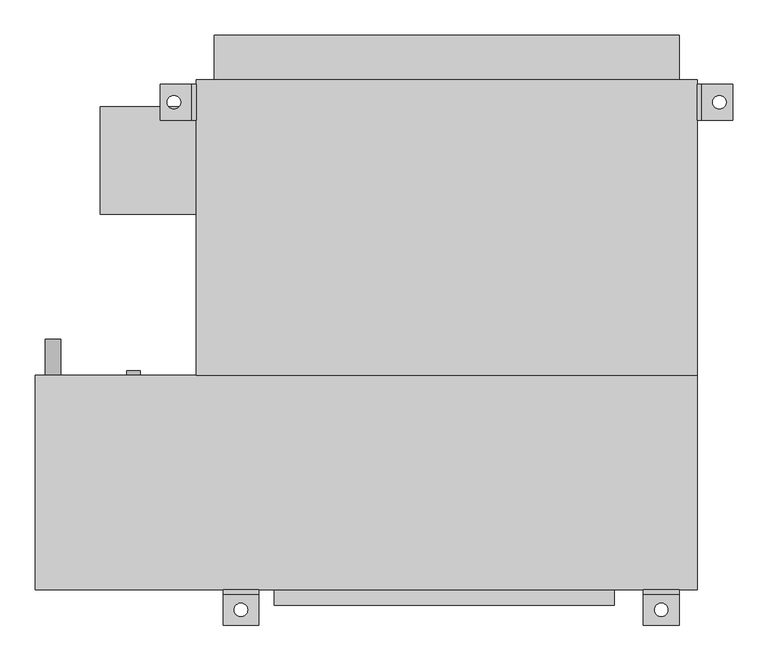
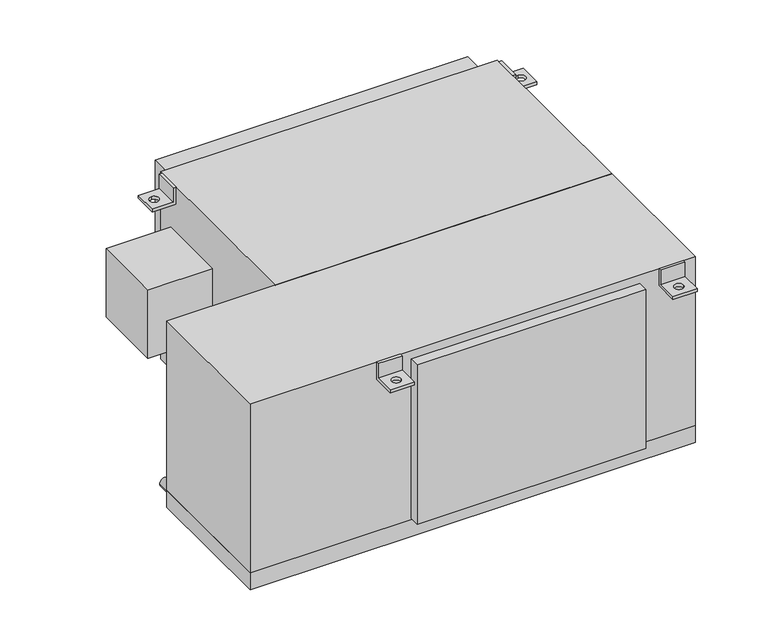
"""IFC4 building model written with IfcOpenShell, lengths in millimetres: proxy geometry, Concealed_High_Capacity_Horizontal_Fan_Coil_Unit_With_Plenum_-_42DCA_-_CARRIER_-_2-Pipe_Cool-EHeat_ValveEnclosure_LH_2022 : Size 08 - 277v/60Hz/1Ph - 6 Row 6.0kW."""

import ifcopenshell
import ifcopenshell.guid

model = None  # the IFC model being written
_history = None  # IfcOwnerHistory: only IFC2X3 demands one
_inside = {}  # id of a spatial element -> (the spatial element, [elements in it])
_under = {}  # id of a project, library or spatial element -> (it, [spatial elements below it])
_declared = {}  # id of a project -> (the project, [libraries it declares])
_typed = {}  # id of a type object -> (the type object, [elements of that type])
_made_of = {}  # id of a material, layer set ... -> (it, [elements and type objects made of it])


def new_model(schema):
    """Start an empty IFC model of exactly this schema.

    Asked for "IFC4X3", IfcOpenShell would pick the latest addendum, in which some entities
    have other attributes; the version numbers below select the first issue.
    IFC2X3 requires an IfcOwnerHistory on every rooted entity: one is made here for all.
    """
    global model, _history
    if schema == "IFC4X3":
        model = ifcopenshell.file(schema_version=(4, 3, 0, 0))
    else:
        model = ifcopenshell.file(schema=schema)
    _inside.clear()
    _under.clear()
    _declared.clear()
    _typed.clear()
    _made_of.clear()
    _history = None
    if model.schema == "IFC2X3":
        org = make("IfcOrganization", Name="unknown")
        user = make(
            "IfcPersonAndOrganization",
            ThePerson=make("IfcPerson", FamilyName="unknown"),
            TheOrganization=org,
        )
        app = make(
            "IfcApplication",
            ApplicationDeveloper=org,
            Version="unknown",
            ApplicationFullName="unknown",
            ApplicationIdentifier="unknown",
        )
        _history = make(
            "IfcOwnerHistory",
            OwningUser=user,
            OwningApplication=app,
            ChangeAction="ADDED",
            CreationDate=0,
        )
    return model


def make(cls, **values):
    """One entity of the class cls with the attributes given. An attribute that is None is left unset."""
    return model.create_entity(
        cls, **{name: value for name, value in values.items() if value is not None}
    )


def rooted(cls, **values):
    """An entity with a GlobalId (a new one), such as an element, a storey or a relation."""
    return make(cls, GlobalId=ifcopenshell.guid.new(), OwnerHistory=_history, **values)


def si_unit(unit_type, name, prefix=None):
    """IfcSIUnit, for example si_unit("LENGTHUNIT", "METRE", prefix="MILLI")."""
    return make("IfcSIUnit", UnitType=unit_type, Prefix=prefix, Name=name)


def assignment(units):
    """IfcUnitAssignment: the units of a project."""
    return None if units is None else make("IfcUnitAssignment", Units=units)


def point(xyz):
    """IfcCartesianPoint."""
    return None if xyz is None else make("IfcCartesianPoint", Coordinates=xyz)


def direction(xyz):
    """IfcDirection."""
    return None if xyz is None else make("IfcDirection", DirectionRatios=xyz)


def frame(location, z_axis=None, x_axis=None):
    """IfcAxis2Placement3D, a coordinate frame: its origin and axes. An axis left out is left unset."""
    return make(
        "IfcAxis2Placement3D",
        Location=point(location),
        Axis=direction(z_axis),
        RefDirection=direction(x_axis),
    )


def frame_2d(location, x_axis=None):
    """IfcAxis2Placement2D, a coordinate frame in the plane: its origin and x axis."""
    return make(
        "IfcAxis2Placement2D", Location=point(location), RefDirection=direction(x_axis)
    )


def origin():
    """The frame at (0, 0, 0) with its axes left unset."""
    return frame((0.0, 0.0, 0.0))


def place(relative_to, where):
    """IfcLocalPlacement: puts the frame where relative to a parent placement (None: the world)."""
    return make(
        "IfcLocalPlacement", PlacementRelTo=relative_to, RelativePlacement=where
    )


def context(
    kind, dimensions, precision=None, world=None, true_north=None, identifier=None
):
    """IfcGeometricRepresentationContext, for example the 3D "Model" context."""
    return make(
        "IfcGeometricRepresentationContext",
        ContextIdentifier=identifier,
        ContextType=kind,
        CoordinateSpaceDimension=dimensions,
        Precision=precision,
        WorldCoordinateSystem=world,
        TrueNorth=true_north,
    )


def project(units=None, contexts=None):
    """IfcProject with its units and contexts."""
    return rooted(
        "IfcProject",
        Name="project",
        RepresentationContexts=contexts,
        UnitsInContext=assignment(units),
    )


def spatial(cls, under=None, at=None, **own):
    """A site, building, storey or space (cls), placed at a placement, below another one or the project."""
    s = rooted(cls, ObjectPlacement=at, **own)
    if under is not None:
        _under.setdefault(under.id(), (under, []))[1].append(s)
    return s


def polyline(points):
    """IfcPolyline through the points."""
    return make("IfcPolyline", Points=[point(p) for p in points])


def circle_curve(where, radius):
    """IfcCircle in the frame where."""
    return make("IfcCircle", Position=where, Radius=radius)


def trimmed(basis, trim1, trim2, sense, master):
    """IfcTrimmedCurve: the piece of a basis curve between two trims."""
    return make(
        "IfcTrimmedCurve",
        BasisCurve=basis,
        Trim1=trim1,
        Trim2=trim2,
        SenseAgreement=sense,
        MasterRepresentation=master,
    )


def segment(curve, same_sense, transition):
    """IfcCompositeCurveSegment."""
    return make(
        "IfcCompositeCurveSegment",
        Transition=transition,
        SameSense=same_sense,
        ParentCurve=curve,
    )


def composite_curve(segments, self_intersect=None):
    """IfcCompositeCurve: segments joined end to end."""
    return make("IfcCompositeCurve", Segments=segments, SelfIntersect=self_intersect)


def outline(outer, holes=None, kind="AREA"):
    """IfcArbitraryClosedProfileDef: a profile drawn as a closed curve; with holes, ...WithVoids."""
    if holes is None:
        return make("IfcArbitraryClosedProfileDef", ProfileType=kind, OuterCurve=outer)
    return make(
        "IfcArbitraryProfileDefWithVoids",
        ProfileType=kind,
        OuterCurve=outer,
        InnerCurves=holes,
    )


def extrude(swept, where, along, depth):
    """IfcExtrudedAreaSolid: the profile swept, set in the frame where, extruded along a direction by depth."""
    return make(
        "IfcExtrudedAreaSolid",
        SweptArea=swept,
        Position=where,
        ExtrudedDirection=direction(along),
        Depth=depth,
    )


def shape(context_of_items, identifier, shape_type, items):
    """IfcShapeRepresentation: the items that make up one representation, for example the "Body"."""
    return make(
        "IfcShapeRepresentation",
        ContextOfItems=context_of_items,
        RepresentationIdentifier=identifier,
        RepresentationType=shape_type,
        Items=items,
    )


def source(mapping_origin, context_of_items, identifier, shape_type, items):
    """IfcRepresentationMap: a shape defined once, which mapped items show again and again."""
    return make(
        "IfcRepresentationMap",
        MappingOrigin=mapping_origin,
        MappedRepresentation=shape(context_of_items, identifier, shape_type, items),
    )


def transform(
    local_origin,
    x_axis=None,
    y_axis=None,
    z_axis=None,
    scale=None,
    scale2=None,
    scale3=None,
    uniform=True,
):
    """IfcCartesianTransformationOperator3D, or its non-uniform kind. x_axis, y_axis, z_axis: its Axis1, 2, 3."""
    if uniform:
        return make(
            "IfcCartesianTransformationOperator3D",
            Axis1=direction(x_axis),
            Axis2=direction(y_axis),
            LocalOrigin=point(local_origin),
            Scale=scale,
            Axis3=direction(z_axis),
        )
    return make(
        "IfcCartesianTransformationOperator3DnonUniform",
        Axis1=direction(x_axis),
        Axis2=direction(y_axis),
        LocalOrigin=point(local_origin),
        Scale=scale,
        Axis3=direction(z_axis),
        Scale2=scale2,
        Scale3=scale3,
    )


def mapped(mapping_source, mapping_target):
    """IfcMappedItem: shows the shape of a source again, moved by a transform."""
    return make(
        "IfcMappedItem", MappingSource=mapping_source, MappingTarget=mapping_target
    )


def made_of(thing, what):
    """Note that an element or type object is made of a material, layer set ...; save() writes the relation."""
    if what is not None:
        _made_of.setdefault(what.id(), (what, []))[1].append(thing)
    return thing


def element(
    cls,
    number,
    at=None,
    inside=None,
    cuts=None,
    type_object=None,
    material=None,
    context=None,
    identifier="Body",
    shape_type=None,
    held_by="IfcProductDefinitionShape",
    body=None,
    shapes=None,
    **own,
):
    """One element of the class cls, such as IfcWall. Its Tag is "e" and its number.

    at: its placement. inside: the storey or other place that contains it. cuts: it is an
    opening in that element (IfcRelVoidsElement). A single representation is given by context,
    identifier, shape_type and body (its items); several are given by shapes. held_by: the class
    of the entity that holds the representations. save() writes the other relations.
    """
    e = rooted(cls, Tag="e%d" % number, ObjectPlacement=at, **own)
    if body is not None:
        shapes = [shape(context, identifier, shape_type, body)]
    if shapes is not None:
        e.Representation = make(held_by, Representations=shapes)
    if inside is not None:
        _inside.setdefault(inside.id(), (inside, []))[1].append(e)
    if cuts is not None:
        rooted(
            "IfcRelVoidsElement", RelatingBuildingElement=cuts, RelatedOpeningElement=e
        )
    if type_object is not None:
        _typed.setdefault(type_object.id(), (type_object, []))[1].append(e)
    return made_of(e, material)


def aggregate(whole, parts):
    """IfcRelAggregates: a whole, such as a stair, and the parts it consists of."""
    return rooted("IfcRelAggregates", RelatingObject=whole, RelatedObjects=parts)


def save(model, path):
    """Write the relations noted so far, then the file.

    IfcRelAggregates (storeys below a building ...), IfcRelContainedInSpatialStructure (elements
    in a storey), IfcRelDefinesByType, IfcRelAssociatesMaterial and IfcRelDeclares: one each for
    every whole, place, type object, material and project.
    """
    for whole, parts in _under.values():
        aggregate(whole, parts)
    for where, things in _inside.values():
        rooted(
            "IfcRelContainedInSpatialStructure",
            RelatedElements=things,
            RelatingStructure=where,
        )
    for kind, things in _typed.values():
        rooted("IfcRelDefinesByType", RelatedObjects=things, RelatingType=kind)
    for what, things in _made_of.values():
        rooted("IfcRelAssociatesMaterial", RelatedObjects=things, RelatingMaterial=what)
    for by, libraries in _declared.values():
        rooted("IfcRelDeclares", RelatingContext=by, RelatedDefinitions=libraries)
    model.write(path)


def plane_surface(at):
    """IfcPlane: the flat surface through the origin of the frame at, square to its z axis."""
    return make("IfcPlane", Position=at)


def revolved_surface(curve, axis_point, axis_direction):
    """IfcSurfaceOfRevolution: the curve turned about the line through axis_point along axis_direction."""
    return make(
        "IfcSurfaceOfRevolution",
        SweptCurve=make("IfcArbitraryOpenProfileDef", ProfileType="CURVE", Curve=curve),
        AxisPosition=make("IfcAxis1Placement", Location=point(axis_point), Axis=direction(axis_direction)),
    )


def advanced_brep(points, edges, surfaces, faces):
    """IfcAdvancedBrep: a solid bounded by faces that lie on surfaces and meet in shared edges.

    An edge is (start, end): straight between two places in points (the first is 0);
    or (start, end, curve); or (start, end, curve, False) where it runs against its curve.
    A face is (place in surfaces, loops), or (place, loops, False) where it looks against
    its surface's normal. A loop lists edges by number (the first is 1), with a minus sign
    where the edge is run from its end to its start. The first loop is the outer one.
    """
    corners = [point(p) for p in points]
    vertices = [make("IfcVertexPoint", VertexGeometry=c) for c in corners]
    made = []
    for start, end, *more in edges:
        made.append(
            make(
                "IfcEdgeCurve",
                EdgeStart=vertices[start],
                EdgeEnd=vertices[end],
                EdgeGeometry=more[0] if more else make("IfcPolyline", Points=[corners[start], corners[end]]),
                SameSense=more[1] if len(more) > 1 else True,
            )
        )
    hull = []
    for where, loops, *sense in faces:
        bounds = []
        for j, loop in enumerate(loops):
            ring = [make("IfcOrientedEdge", EdgeElement=made[abs(k) - 1], Orientation=k > 0) for k in loop]
            bounds.append(
                make(
                    "IfcFaceOuterBound" if j == 0 else "IfcFaceBound",
                    Bound=make("IfcEdgeLoop", EdgeList=ring),
                    Orientation=True,
                )
            )
        hull.append(make("IfcAdvancedFace", Bounds=bounds, FaceSurface=surfaces[where], SameSense=sense[0] if sense else True))
    return make("IfcAdvancedBrep", Outer=make("IfcClosedShell", CfsFaces=hull))


def mechanical_equipment_cd13e895(model_context):
    return source(origin(), model_context, "Body", "SolidModel", [
        advanced_brep(
        [(482.6, -390.525, 0.0), (482.6, -396.875, 0.0), (482.6, -396.875, -31.75), (482.6, -441.325, -31.75), (482.6, -441.325, -38.1), (482.6, -390.525, -38.1), (431.8, -390.525, 0.0), (431.8, -390.525, -38.1), (431.8, -441.325, -38.1), (431.8, -441.325, -31.75), (431.8, -396.875, -31.75), (431.8, -396.875, 0.0), (447.675, -419.1, -31.75), (466.725, -419.1, -31.75), (466.725, -419.1, -38.1), (447.675, -419.1, -38.1)],
        [
            (0, 1),
            (1, 2),
            (2, 3),
            (3, 4),
            (4, 5),
            (5, 0),
            (6, 7),
            (7, 8),
            (8, 9),
            (9, 10),
            (10, 11),
            (11, 6),
            (0, 6),
            (11, 1),
            (10, 2),
            (9, 3),
            (12, 13, circle_curve(frame((457.2, -419.1, -31.75), z_axis=(0.0, 0.0, -1.0), x_axis=(1.0, 0.0, 0.0)), 9.525)),
            (13, 12, circle_curve(frame((457.2, -419.1, -31.75), z_axis=(0.0, 0.0, -1.0), x_axis=(1.0, 0.0, 0.0)), 9.525)),
            (8, 4),
            (7, 5),
            (14, 15, circle_curve(frame((457.2, -419.1, -38.1), z_axis=(0.0, 0.0, 1.0), x_axis=(1.0, 0.0, 0.0)), 9.525)),
            (15, 14, circle_curve(frame((457.2, -419.1, -38.1), z_axis=(0.0, 0.0, 1.0), x_axis=(1.0, 0.0, 0.0)), 9.525)),
            (12, 15),
            (14, 13),
        ],
        [
            plane_surface(frame((482.6, -396.875, 0.0), z_axis=(1.0, 0.0, 0.0), x_axis=(0.0, -1.0, 0.0))),
            plane_surface(frame((431.8, -396.875, 0.0), z_axis=(-1.0, 0.0, 0.0), x_axis=(0.0, 1.0, 0.0))),
            plane_surface(frame((482.6, -390.525, 0.0), z_axis=(0.0, 0.0, 1.0), x_axis=(-1.0, 0.0, 0.0))),
            plane_surface(frame((482.6, -396.875, 0.0), z_axis=(0.0, -1.0, 0.0), x_axis=(-1.0, 0.0, 0.0))),
            plane_surface(frame((482.6, -396.875, -31.75), z_axis=(0.0, 0.0, 1.0), x_axis=(-1.0, 0.0, 0.0))),
            plane_surface(frame((482.6, -441.325, -31.75), z_axis=(0.0, -1.0, 0.0), x_axis=(-1.0, 0.0, 0.0))),
            plane_surface(frame((482.6, -441.325, -38.1), z_axis=(0.0, 0.0, -1.0), x_axis=(-1.0, 0.0, 0.0))),
            plane_surface(frame((482.6, -390.525, -38.1), z_axis=(0.0, 1.0, 0.0), x_axis=(-1.0, 0.0, 0.0))),
            revolved_surface(polyline([(466.72499999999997, -419.1, -38.1), (466.72499999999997, -419.1, -31.75)]), (457.2, -419.1, -31.75), (0.0, 0.0, -1.0)),
        ],
        [
            (0, [[1, 2, 3, 4, 5, 6]]),
            (1, [[7, 8, 9, 10, 11, 12]]),
            (2, [[-1, 13, -12, 14]]),
            (3, [[-2, -14, -11, 15]]),
            (4, [[-3, -15, -10, 16], [17, 18]]),
            (5, [[-4, -16, -9, 19]]),
            (6, [[-5, -19, -8, 20], [21, 22]]),
            (7, [[-6, -20, -7, -13]]),
            (8, [[23, -21, 24, -17]]),
            (8, [[-23, -18, -24, -22]]),
        ],
    ),
        advanced_brep(
        [(-114.3, -390.525, -38.1), (-114.3, -390.525, 0.0), (-114.3, -396.875, 0.0), (-114.3, -396.875, -31.75), (-114.3, -441.325, -31.75), (-114.3, -441.325, -38.1), (-165.1, -390.525, -38.1), (-165.1, -441.325, -38.1), (-165.1, -441.325, -31.75), (-165.1, -396.875, -31.75), (-165.1, -396.875, 0.0), (-165.1, -390.525, 0.0), (-149.225, -419.1, -31.75), (-130.175, -419.1, -31.75), (-130.175, -419.1, -38.1), (-149.225, -419.1, -38.1)],
        [
            (0, 1),
            (1, 2),
            (2, 3),
            (3, 4),
            (4, 5),
            (5, 0),
            (6, 7),
            (7, 8),
            (8, 9),
            (9, 10),
            (10, 11),
            (11, 6),
            (0, 6),
            (11, 1),
            (10, 2),
            (9, 3),
            (8, 4),
            (12, 13, circle_curve(frame((-139.7, -419.1, -31.75), z_axis=(0.0, 0.0, -1.0), x_axis=(1.0, 0.0, 0.0)), 9.525)),
            (13, 12, circle_curve(frame((-139.7, -419.1, -31.75), z_axis=(0.0, 0.0, -1.0), x_axis=(1.0, 0.0, 0.0)), 9.525)),
            (7, 5),
            (14, 15, circle_curve(frame((-139.7, -419.1, -38.1), z_axis=(0.0, 0.0, 1.0), x_axis=(1.0, 0.0, 0.0)), 9.525)),
            (15, 14, circle_curve(frame((-139.7, -419.1, -38.1), z_axis=(0.0, 0.0, 1.0), x_axis=(1.0, 0.0, 0.0)), 9.525)),
            (12, 15),
            (14, 13),
        ],
        [
            plane_surface(frame((-114.3, -390.525, -38.1), z_axis=(1.0, 0.0, 0.0), x_axis=(0.0, 0.0, 1.0))),
            plane_surface(frame((-165.1, -390.525, -38.1), z_axis=(-1.0, 0.0, 0.0), x_axis=(0.0, 0.0, -1.0))),
            plane_surface(frame((-114.3, -390.525, -38.1), z_axis=(0.0, 1.0, 0.0), x_axis=(-1.0, 0.0, 0.0))),
            plane_surface(frame((-114.3, -390.525, 0.0), z_axis=(0.0, 0.0, 1.0), x_axis=(-1.0, 0.0, 0.0))),
            plane_surface(frame((-114.3, -396.875, 0.0), z_axis=(0.0, -1.0, 0.0), x_axis=(-1.0, 0.0, 0.0))),
            plane_surface(frame((-114.3, -396.875, -31.75), z_axis=(0.0, 0.0, 1.0), x_axis=(-1.0, 0.0, 0.0))),
            plane_surface(frame((-114.3, -441.325, -31.75), z_axis=(0.0, -1.0, 0.0), x_axis=(-1.0, 0.0, 0.0))),
            plane_surface(frame((-114.3, -441.325, -38.1), z_axis=(0.0, 0.0, -1.0), x_axis=(-1.0, 0.0, 0.0))),
            revolved_surface(polyline([(-130.17499999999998, -419.1, -38.1), (-130.17499999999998, -419.1, -31.75)]), (-139.7, -419.1, -31.75), (0.0, 0.0, -1.0)),
        ],
        [
            (0, [[1, 2, 3, 4, 5, 6]]),
            (1, [[7, 8, 9, 10, 11, 12]]),
            (2, [[-1, 13, -12, 14]]),
            (3, [[-2, -14, -11, 15]]),
            (4, [[-3, -15, -10, 16]]),
            (5, [[-4, -16, -9, 17], [18, 19]]),
            (6, [[-5, -17, -8, 20]]),
            (7, [[-6, -20, -7, -13], [21, 22]]),
            (8, [[23, -21, 24, -18]]),
            (8, [[-23, -19, -24, -22]]),
        ],
    ),
        extrude(outline(composite_curve([segment(trimmed(circle_curve(frame_2d((-400.05, -406.4)), 11.1125), [point((-400.05, -417.5125))], [point((-400.05, -395.2875))], False, "CARTESIAN"), True, "CONTINUOUS"), segment(trimmed(circle_curve(frame_2d((-400.05, -406.4)), 11.1125), [point((-400.05, -395.2875))], [point((-400.05, -417.5125))], False, "CARTESIAN"), True, "CONTINUOUS")], self_intersect=False)), frame((0.0, -85.725, 0.0), z_axis=(0.0, 1.0, 0.0), x_axis=(0.0, 0.0, 1.0)), (0.0, 0.0, 1.0), 50.8),
        extrude(outline(composite_curve([segment(trimmed(circle_curve(frame_2d((-44.45, -292.1)), 9.525), [point((-44.45, -301.625))], [point((-44.45, -282.575))], False, "CARTESIAN"), True, "CONTINUOUS"), segment(trimmed(circle_curve(frame_2d((-44.45, -292.1)), 9.525), [point((-44.45, -282.575))], [point((-44.45, -301.625))], False, "CARTESIAN"), True, "CONTINUOUS")], self_intersect=False)), frame((0.0, -85.725, 0.0), z_axis=(0.0, 1.0, 0.0), x_axis=(0.0, 0.0, 1.0)), (0.0, 0.0, 1.0), 6.35),
        extrude(outline(composite_curve([segment(trimmed(circle_curve(frame_2d((-276.225, -292.1)), 9.525), [point((-276.225, -301.625))], [point((-276.225, -282.575))], False, "CARTESIAN"), True, "CONTINUOUS"), segment(trimmed(circle_curve(frame_2d((-276.225, -292.1)), 9.525), [point((-276.225, -282.575))], [point((-276.225, -301.625))], False, "CARTESIAN"), True, "CONTINUOUS")], self_intersect=False)), frame((0.0, -85.725, 0.0), z_axis=(0.0, 1.0, 0.0), x_axis=(0.0, 0.0, 1.0)), (0.0, 0.0, 1.0), 6.35),
        advanced_brep(
        [(-203.2, 327.025, -38.1), (-254.0, 327.025, -38.1), (-254.0, 327.025, -31.75), (-209.55, 327.025, -31.75), (-209.55, 327.025, 0.0), (-203.2, 327.025, 0.0), (-203.2, 276.225, -38.1), (-203.2, 276.225, 0.0), (-209.55, 276.225, 0.0), (-209.55, 276.225, -31.75), (-254.0, 276.225, -31.75), (-254.0, 276.225, -38.1), (-234.95, 292.1, -38.1), (-234.95, 311.15, -38.1), (-234.95, 311.15, -31.75), (-234.95, 292.1, -31.75)],
        [
            (0, 1),
            (1, 2),
            (2, 3),
            (3, 4),
            (4, 5),
            (5, 0),
            (6, 7),
            (7, 8),
            (8, 9),
            (9, 10),
            (10, 11),
            (11, 6),
            (0, 6),
            (11, 1),
            (12, 13, circle_curve(frame((-234.95, 301.625, -38.1), z_axis=(0.0, 0.0, 1.0), x_axis=(0.0, -1.0, 0.0)), 9.525)),
            (13, 12, circle_curve(frame((-234.95, 301.625, -38.1), z_axis=(0.0, 0.0, 1.0), x_axis=(0.0, -1.0, 0.0)), 9.525)),
            (10, 2),
            (9, 3),
            (14, 15, circle_curve(frame((-234.95, 301.625, -31.75), z_axis=(0.0, 0.0, -1.0), x_axis=(0.0, -1.0, 0.0)), 9.525)),
            (15, 14, circle_curve(frame((-234.95, 301.625, -31.75), z_axis=(0.0, 0.0, -1.0), x_axis=(0.0, -1.0, 0.0)), 9.525)),
            (8, 4),
            (7, 5),
            (14, 13),
            (12, 15),
        ],
        [
            plane_surface(frame((-203.2, 327.025, -38.1), z_axis=(0.0, 1.0, 0.0), x_axis=(-1.0, 0.0, 0.0))),
            plane_surface(frame((-203.2, 276.225, -38.1), z_axis=(0.0, -1.0, 0.0), x_axis=(1.0, 0.0, 0.0))),
            plane_surface(frame((-203.2, 327.025, -38.1), z_axis=(0.0, 0.0, -1.0), x_axis=(0.0, -1.0, 0.0))),
            plane_surface(frame((-254.0, 327.025, -38.1), z_axis=(-1.0, 0.0, 0.0), x_axis=(0.0, -1.0, 0.0))),
            plane_surface(frame((-254.0, 327.025, -31.75), z_axis=(0.0, 0.0, 1.0), x_axis=(0.0, -1.0, 0.0))),
            plane_surface(frame((-209.55, 327.025, -31.75), z_axis=(-1.0, 0.0, 0.0), x_axis=(0.0, -1.0, 0.0))),
            plane_surface(frame((-209.55, 327.025, 0.0), z_axis=(0.0, 0.0, 1.0), x_axis=(0.0, -1.0, 0.0))),
            plane_surface(frame((-203.2, 327.025, 0.0), z_axis=(1.0, 0.0, 0.0), x_axis=(0.0, -1.0, 0.0))),
            revolved_surface(polyline([(-234.95, 292.1, -38.1), (-234.95, 292.1, -31.75)]), (-234.95, 301.625, -31.75), (0.0, 0.0, -1.0)),
        ],
        [
            (0, [[1, 2, 3, 4, 5, 6]]),
            (1, [[7, 8, 9, 10, 11, 12]]),
            (2, [[-1, 13, -12, 14], [15, 16]]),
            (3, [[-2, -14, -11, 17]]),
            (4, [[-3, -17, -10, 18], [19, 20]]),
            (5, [[-4, -18, -9, 21]]),
            (6, [[-5, -21, -8, 22]]),
            (7, [[-6, -22, -7, -13]]),
            (8, [[23, -15, 24, -19]]),
            (8, [[-23, -20, -24, -16]]),
        ],
    ),
        advanced_brep(
        [(508.0, 327.025, -38.1), (508.0, 327.025, 0.0), (514.35, 327.025, 0.0), (514.35, 327.025, -31.75), (558.8, 327.025, -31.75), (558.8, 327.025, -38.1), (508.0, 276.225, -38.1), (558.8, 276.225, -38.1), (558.8, 276.225, -31.75), (514.35, 276.225, -31.75), (514.35, 276.225, 0.0), (508.0, 276.225, 0.0), (539.75, 311.15, -31.75), (539.75, 292.1, -31.75), (539.75, 292.1, -38.1), (539.75, 311.15, -38.1)],
        [
            (0, 1),
            (1, 2),
            (2, 3),
            (3, 4),
            (4, 5),
            (5, 0),
            (6, 7),
            (7, 8),
            (8, 9),
            (9, 10),
            (10, 11),
            (11, 6),
            (0, 6),
            (11, 1),
            (10, 2),
            (9, 3),
            (8, 4),
            (12, 13, circle_curve(frame((539.75, 301.625, -31.75), z_axis=(0.0, 0.0, -1.0), x_axis=(0.0, -1.0, 0.0)), 9.525)),
            (13, 12, circle_curve(frame((539.75, 301.625, -31.75), z_axis=(0.0, 0.0, -1.0), x_axis=(0.0, -1.0, 0.0)), 9.525)),
            (7, 5),
            (14, 15, circle_curve(frame((539.75, 301.625, -38.1), z_axis=(0.0, 0.0, 1.0), x_axis=(0.0, -1.0, 0.0)), 9.525)),
            (15, 14, circle_curve(frame((539.75, 301.625, -38.1), z_axis=(0.0, 0.0, 1.0), x_axis=(0.0, -1.0, 0.0)), 9.525)),
            (12, 15),
            (14, 13),
        ],
        [
            plane_surface(frame((-203.2, 327.025, -38.1), z_axis=(0.0, 1.0, 0.0), x_axis=(-1.0, 0.0, 0.0))),
            plane_surface(frame((-203.2, 276.225, -38.1), z_axis=(0.0, -1.0, 0.0), x_axis=(1.0, 0.0, 0.0))),
            plane_surface(frame((508.0, 327.025, -38.1), z_axis=(-1.0, 0.0, 0.0), x_axis=(0.0, -1.0, 0.0))),
            plane_surface(frame((508.0, 327.025, 0.0), z_axis=(0.0, 0.0, 1.0), x_axis=(0.0, -1.0, 0.0))),
            plane_surface(frame((514.35, 327.025, 0.0), z_axis=(1.0, 0.0, 0.0), x_axis=(0.0, -1.0, 0.0))),
            plane_surface(frame((514.35, 327.025, -31.75), z_axis=(0.0, 0.0, 1.0), x_axis=(0.0, -1.0, 0.0))),
            plane_surface(frame((558.8, 327.025, -31.75), z_axis=(1.0, 0.0, 0.0), x_axis=(0.0, -1.0, 0.0))),
            plane_surface(frame((558.8, 327.025, -38.1), z_axis=(0.0, 0.0, -1.0), x_axis=(0.0, -1.0, 0.0))),
            revolved_surface(polyline([(539.75, 292.1, -38.1), (539.75, 292.1, -31.75)]), (539.75, 301.625, -31.75), (0.0, 0.0, -1.0)),
        ],
        [
            (0, [[1, 2, 3, 4, 5, 6]]),
            (1, [[7, 8, 9, 10, 11, 12]]),
            (2, [[-1, 13, -12, 14]]),
            (3, [[-2, -14, -11, 15]]),
            (4, [[-3, -15, -10, 16]]),
            (5, [[-4, -16, -9, 17], [18, 19]]),
            (6, [[-5, -17, -8, 20]]),
            (7, [[-6, -20, -7, -13], [21, 22]]),
            (8, [[23, -21, 24, -18]]),
            (8, [[-23, -19, -24, -22]]),
        ],
    ),
        extrude(outline(polyline([(-177.8, 396.875), (482.6, 396.875), (482.6, 333.375), (-177.8, 333.375), (-177.8, 396.875)])), frame((0.0, 0.0, -377.825), z_axis=(0.0, 0.0, 1.0), x_axis=(1.0, 0.0, 0.0)), (0.0, 0.0, 1.0), 355.6),
        extrude(outline(polyline([(-339.725, 142.875), (-339.725, 295.275), (-203.2, 295.275), (-203.2, 142.875), (-339.725, 142.875)])), frame((0.0, 0.0, -254.0), z_axis=(0.0, 0.0, 1.0), x_axis=(1.0, 0.0, 0.0)), (0.0, 0.0, 1.0), 152.4),
        extrude(outline(polyline([(390.525, -412.75), (-92.075, -412.75), (-92.075, -390.525), (390.525, -390.525), (390.525, -412.75)])), frame((0.0, 0.0, -374.65), z_axis=(0.0, 0.0, 1.0), x_axis=(1.0, 0.0, 0.0)), (0.0, 0.0, 1.0), 355.6),
        extrude(outline(polyline([(508.0, -85.725), (-203.2, -85.725), (-203.2, 333.375), (508.0, 333.375), (508.0, -85.725)])), frame((0.0, 0.0, -419.1), z_axis=(0.0, 0.0, 1.0), x_axis=(1.0, 0.0, 0.0)), (0.0, 0.0, 1.0), 419.1),
        extrude(outline(polyline([(508.0, -85.725), (508.0, -390.525), (-431.8, -390.525), (-431.8, -85.725), (508.0, -85.725)])), frame((0.0, 0.0, -377.825), z_axis=(0.0, 0.0, 1.0), x_axis=(1.0, 0.0, 0.0)), (0.0, 0.0, 1.0), 377.825),
        extrude(outline(polyline([(508.0, -85.725), (508.0, -390.525), (-431.8, -390.525), (-431.8, -85.725), (508.0, -85.725)])), frame((0.0, 0.0, -415.925), z_axis=(0.0, 0.0, 1.0), x_axis=(1.0, 0.0, 0.0)), (0.0, 0.0, 1.0), 38.1),
    ])


if __name__ == "__main__":
    model = new_model("IFC4")
    model_context = context("Model", 3, world=origin())
    ifc_project = project(units=[si_unit("LENGTHUNIT", "METRE", prefix="MILLI")], contexts=[model_context])
    site = spatial("IfcSite", under=ifc_project)
    building = spatial("IfcBuilding", under=site)
    placement = place(None, origin())
    mechanical_equipment_shape = mechanical_equipment_cd13e895(model_context)
    element("IfcBuildingElementProxy", 1, Name="Concealed_High_Capacity_Horizontal_Fan_Coil_Unit_With_Plenum_-_42DCA_-_CARRIER_-_2-Pipe_Cool-EHeat_ValveEnclosure_LH_2022 : Size 08 - 277v/60Hz/1Ph - 6 Row 6.0kW", ObjectType="Concealed_High_Capacity_Horizontal_Fan_Coil_Unit_With_Plenum_-_42DCA_-_CARRIER_-_2-Pipe_Cool-EHeat_ValveEnclosure_LH_2022 : Size 08 - 277v/60Hz/1Ph - 6 Row 6.0kW", at=placement, inside=building, context=model_context, shape_type="MappedRepresentation", body=[
        mapped(mechanical_equipment_shape, transform((0.0, 0.0, 0.0), x_axis=(1.0, 0.0, 0.0), y_axis=(0.0, 1.0, 0.0), z_axis=(0.0, 0.0, 1.0))),
    ])
    save(model, "model.ifc")
